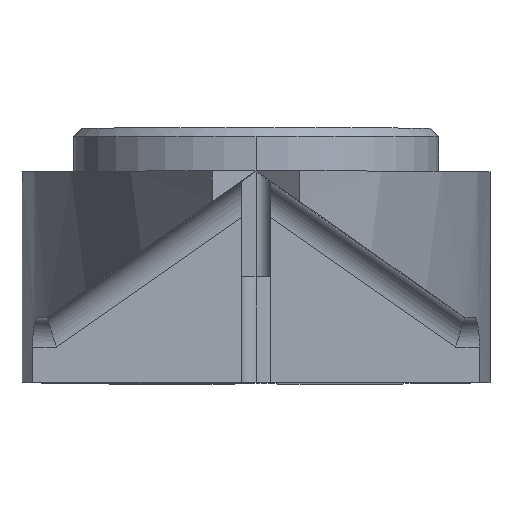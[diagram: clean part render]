
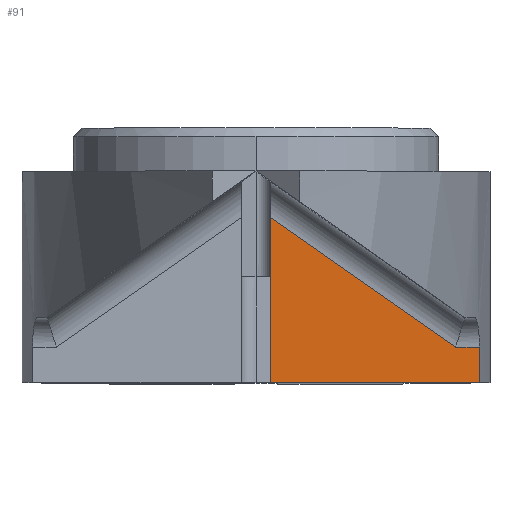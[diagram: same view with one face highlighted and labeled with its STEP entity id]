
A CAD part, top view. The second image highlights one B-rep face of the part: STEP entity #91.
In plain terms, the highlighted planar face has unit normal (0, 0, 1).
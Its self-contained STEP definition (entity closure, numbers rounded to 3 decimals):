
#42 = DIRECTION ( 'NONE',  ( -1., 0., 0. ) ) ;
#91 = ADVANCED_FACE ( 'NONE', ( #1836 ), #1767, .T. ) ;
#136 = EDGE_LOOP ( 'NONE', ( #1436, #3760, #2587, #1975, #3429 ) ) ;
#476 = VECTOR ( 'NONE', #2169, 1000. ) ;
#551 = EDGE_CURVE ( 'NONE', #1285, #1879, #2020, .T. ) ;
#872 = EDGE_CURVE ( 'NONE', #2654, #3206, #1783, .T. ) ;
#932 = CARTESIAN_POINT ( 'NONE',  ( 7.638, 2.831, 10. ) ) ;
#946 = VECTOR ( 'NONE', #3059, 1000. ) ;
#1066 = CARTESIAN_POINT ( 'NONE',  ( 6.825, 1.2, 10. ) ) ;
#1105 = EDGE_CURVE ( 'NONE', #3206, #1879, #3448, .T. ) ;
#1248 = DIRECTION ( 'NONE',  ( -1., 0., 0. ) ) ;
#1285 = VERTEX_POINT ( 'NONE', #1567 ) ;
#1347 = LINE ( 'NONE', #3544, #2089 ) ;
#1436 = ORIENTED_EDGE ( 'NONE', *, *, #551, .F. ) ;
#1567 = CARTESIAN_POINT ( 'NONE',  ( 0.5, 5.629, 10. ) ) ;
#1712 = DIRECTION ( 'NONE',  ( 0., -1., 0. ) ) ;
#1737 = DIRECTION ( 'NONE',  ( 0., 0., 1. ) ) ;
#1751 = CARTESIAN_POINT ( 'NONE',  ( 0.5, 0., 10. ) ) ;
#1759 = LINE ( 'NONE', #1953, #3382 ) ;
#1767 = PLANE ( 'NONE',  #3717 ) ;
#1783 = LINE ( 'NONE', #932, #946 ) ;
#1836 = FACE_OUTER_BOUND ( 'NONE', #136, .T. ) ;
#1879 = VERTEX_POINT ( 'NONE', #1066 ) ;
#1953 = CARTESIAN_POINT ( 'NONE',  ( 4.227, 0., 10. ) ) ;
#1975 = ORIENTED_EDGE ( 'NONE', *, *, #872, .T. ) ;
#1984 = EDGE_CURVE ( 'NONE', #2654, #2794, #1759, .T. ) ;
#2020 = LINE ( 'NONE', #2332, #476 ) ;
#2089 = VECTOR ( 'NONE', #1712, 1000. ) ;
#2169 = DIRECTION ( 'NONE',  ( 0.819, -0.574, 0. ) ) ;
#2332 = CARTESIAN_POINT ( 'NONE',  ( 3.376, 3.615, 10. ) ) ;
#2587 = ORIENTED_EDGE ( 'NONE', *, *, #1984, .F. ) ;
#2654 = VERTEX_POINT ( 'NONE', #3513 ) ;
#2709 = EDGE_CURVE ( 'NONE', #1285, #2794, #1347, .T. ) ;
#2726 = VECTOR ( 'NONE', #42, 1000. ) ;
#2794 = VERTEX_POINT ( 'NONE', #1751 ) ;
#2873 = DIRECTION ( 'NONE',  ( 1., 0., 0. ) ) ;
#3059 = DIRECTION ( 'NONE',  ( 0., 1., 0. ) ) ;
#3206 = VERTEX_POINT ( 'NONE', #3660 ) ;
#3326 = CARTESIAN_POINT ( 'NONE',  ( 0.5, 0., 10. ) ) ;
#3382 = VECTOR ( 'NONE', #1248, 1000. ) ;
#3429 = ORIENTED_EDGE ( 'NONE', *, *, #1105, .T. ) ;
#3448 = LINE ( 'NONE', #3728, #2726 ) ;
#3513 = CARTESIAN_POINT ( 'NONE',  ( 7.638, 0., 10. ) ) ;
#3544 = CARTESIAN_POINT ( 'NONE',  ( 0.5, 2.831, 10. ) ) ;
#3660 = CARTESIAN_POINT ( 'NONE',  ( 7.638, 1.2, 10. ) ) ;
#3717 = AXIS2_PLACEMENT_3D ( 'NONE', #3326, #1737, #2873 ) ;
#3728 = CARTESIAN_POINT ( 'NONE',  ( 4.069, 1.2, 10. ) ) ;
#3760 = ORIENTED_EDGE ( 'NONE', *, *, #2709, .T. ) ;
